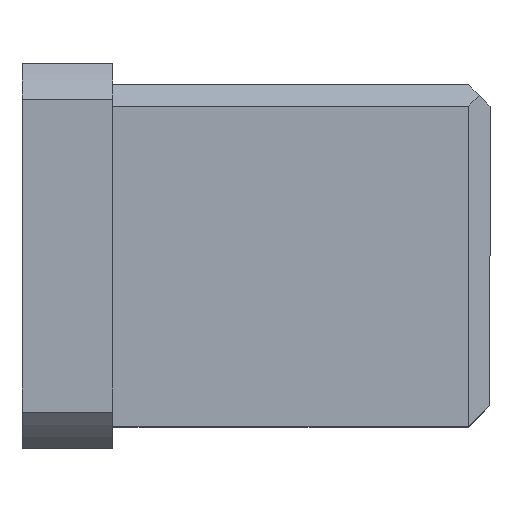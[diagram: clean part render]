
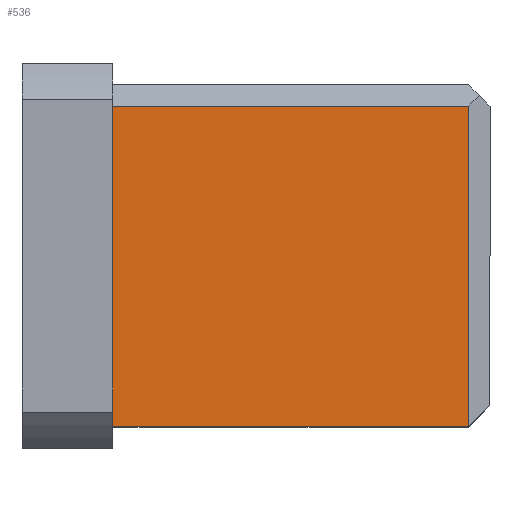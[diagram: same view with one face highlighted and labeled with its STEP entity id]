
A CAD part, top view. The second image highlights one B-rep face of the part: STEP entity #536.
In plain terms, the highlighted planar face has unit normal (0, 0, 1).
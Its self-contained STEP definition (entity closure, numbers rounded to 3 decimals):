
#536 = ADVANCED_FACE ( 'NONE', ( #3276 ), #2988, .T. ) ;
#1107 = EDGE_LOOP ( 'NONE', ( #1538, #1539, #1540, #1541 ) ) ;
#1538 = ORIENTED_EDGE ( 'NONE', *, *, #6423, .T. ) ;
#1539 = ORIENTED_EDGE ( 'NONE', *, *, #6426, .T. ) ;
#1540 = ORIENTED_EDGE ( 'NONE', *, *, #6421, .T. ) ;
#1541 = ORIENTED_EDGE ( 'NONE', *, *, #6385, .T. ) ;
#1864 = VERTEX_POINT ( 'NONE', #3793 ) ;
#1872 = VERTEX_POINT ( 'NONE', #3801 ) ;
#2289 = AXIS2_PLACEMENT_3D ( 'NONE', #3007, #3008, #3009 ) ;
#2988 = PLANE ( 'NONE',  #2289 ) ;
#3007 = CARTESIAN_POINT ( 'NONE',  ( -8.3, 0., 80. ) ) ;
#3008 = DIRECTION ( 'NONE',  ( 0., 0., 1. ) ) ;
#3009 = DIRECTION ( 'NONE',  ( 1., 0., 0. ) ) ;
#3276 = FACE_OUTER_BOUND ( 'NONE', #1107, .T. ) ;
#3793 = CARTESIAN_POINT ( 'NONE',  ( 75., 0., 80. ) ) ;
#3801 = CARTESIAN_POINT ( 'NONE',  ( -8.3, 0., 80. ) ) ;
#6385 = EDGE_CURVE ( 'NONE', #6810, #6814, #9848, .T. ) ;
#6421 = EDGE_CURVE ( 'NONE', #1864, #6810, #9919, .T. ) ;
#6423 = EDGE_CURVE ( 'NONE', #6814, #1872, #9917, .T. ) ;
#6426 = EDGE_CURVE ( 'NONE', #1872, #1864, #9923, .T. ) ;
#6810 = VERTEX_POINT ( 'NONE', #9796 ) ;
#6814 = VERTEX_POINT ( 'NONE', #9800 ) ;
#8813 = CARTESIAN_POINT ( 'NONE',  ( -8.3, 75., 80. ) ) ;
#8815 = DIRECTION ( 'NONE',  ( -1., 0., 0. ) ) ;
#8880 = CARTESIAN_POINT ( 'NONE',  ( -8.3, 0., 80. ) ) ;
#8884 = CARTESIAN_POINT ( 'NONE',  ( 0., 0., 80. ) ) ;
#8887 = CARTESIAN_POINT ( 'NONE',  ( 75., 0., 80. ) ) ;
#8888 = DIRECTION ( 'NONE',  ( 0., 1., 0. ) ) ;
#8892 = DIRECTION ( 'NONE',  ( 0., -1., 0. ) ) ;
#8898 = DIRECTION ( 'NONE',  ( 1., 0., 0. ) ) ;
#9796 = CARTESIAN_POINT ( 'NONE',  ( 75., 75., 80. ) ) ;
#9800 = CARTESIAN_POINT ( 'NONE',  ( -8.3, 75., 80. ) ) ;
#9848 = LINE ( 'NONE', #8813, #9851 ) ;
#9851 = VECTOR ( 'NONE', #8815, 1000. ) ;
#9917 = LINE ( 'NONE', #8880, #9926 ) ;
#9919 = LINE ( 'NONE', #8887, #9922 ) ;
#9922 = VECTOR ( 'NONE', #8888, 1000. ) ;
#9923 = LINE ( 'NONE', #8884, #9932 ) ;
#9926 = VECTOR ( 'NONE', #8892, 1000. ) ;
#9932 = VECTOR ( 'NONE', #8898, 1000. ) ;
